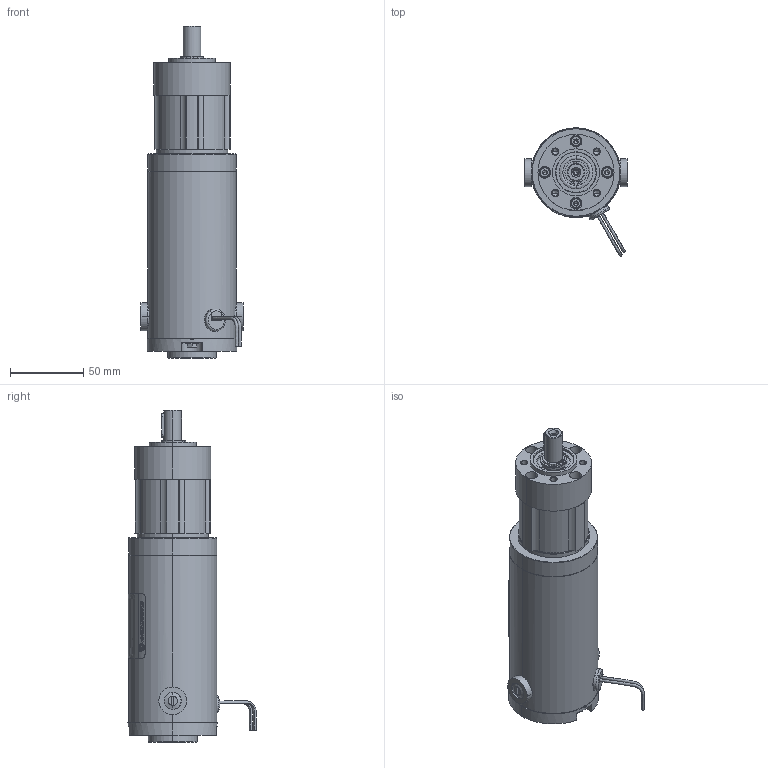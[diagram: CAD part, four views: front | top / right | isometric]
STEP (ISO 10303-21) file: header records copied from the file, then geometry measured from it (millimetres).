
FILE_DESCRIPTION (( 'STEP AP214' ), '1' );
FILE_NAME ('PM6015-PL5200iP_2S.STEP', '2013-05-01T16:22:58', ( '' ), ( '' ), 'SwSTEP 2.0', 'SolidWorks 2013', '' );
FILE_SCHEMA (( 'AUTOMOTIVE_DESIGN' ));
Length unit declared in the file: inch
Products named in the file (1): PM6015-PL5200iP_2S
Bounding box: 69.81 x 87.55 x 226.92 mm (x, y, z)
Surface area: 151479 mm2 (no closed solid volume)
Topology: 0 solids, 49 shells, 1842 faces, 4771 edges, 3062 vertices
Faces by surface type: cylinder 609, plane 574, bspline 393, cone 191, torus 61, sphere 14
Entity records: 104931 total; most frequent: CARTESIAN_POINT 37891, ORIENTED_EDGE 9350, DIRECTION 8036, EDGE_CURVE 4695, AXIS2_PLACEMENT_3D 3072, VERTEX_POINT 3048, EDGE_LOOP 2085, LINE 1892
